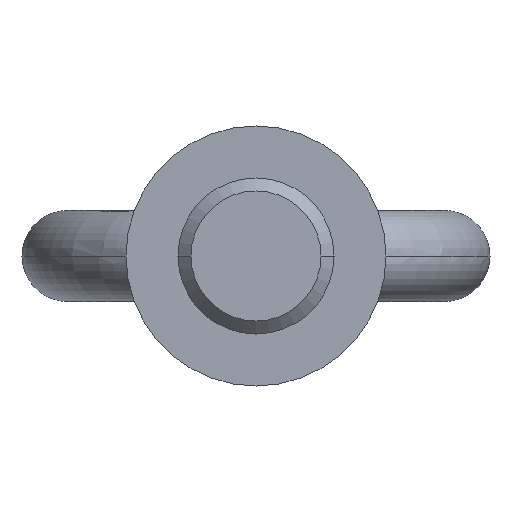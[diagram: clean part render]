
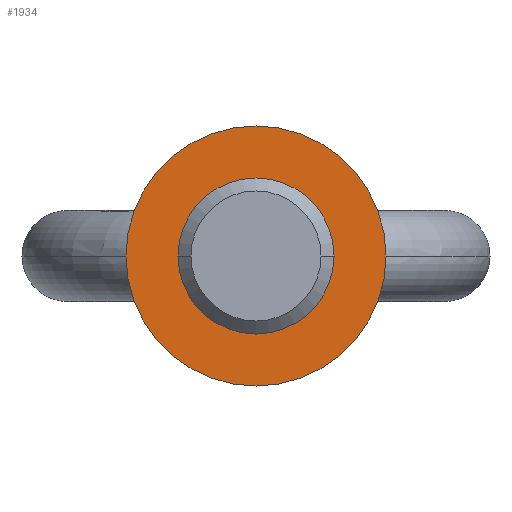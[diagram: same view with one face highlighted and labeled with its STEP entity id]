
A CAD part, front view. The second image highlights one B-rep face of the part: STEP entity #1934.
In plain terms, the highlighted planar face has unit normal (0, -1, 0).
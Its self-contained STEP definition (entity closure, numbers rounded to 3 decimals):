
#111 = DIRECTION ( 'NONE',  ( 0., 1., 0. ) ) ;
#131 = ORIENTED_EDGE ( 'NONE', *, *, #2061, .F. ) ;
#212 = EDGE_CURVE ( 'NONE', #1948, #1283, #424, .T. ) ;
#237 = EDGE_LOOP ( 'NONE', ( #131, #844 ) ) ;
#339 = AXIS2_PLACEMENT_3D ( 'NONE', #1399, #2157, #438 ) ;
#424 = CIRCLE ( 'NONE', #703, 10. ) ;
#425 = FACE_OUTER_BOUND ( 'NONE', #237, .T. ) ;
#438 = DIRECTION ( 'NONE',  ( 0., 0., 1. ) ) ;
#591 = DIRECTION ( 'NONE',  ( 0., 1., 0. ) ) ;
#647 = CIRCLE ( 'NONE', #2257, 6. ) ;
#649 = EDGE_CURVE ( 'NONE', #969, #1815, #1198, .T. ) ;
#703 = AXIS2_PLACEMENT_3D ( 'NONE', #1181, #1542, #1888 ) ;
#800 = CARTESIAN_POINT ( 'NONE',  ( 0., 0., -6. ) ) ;
#844 = ORIENTED_EDGE ( 'NONE', *, *, #212, .F. ) ;
#949 = CARTESIAN_POINT ( 'NONE',  ( 0., 0., 0. ) ) ;
#969 = VERTEX_POINT ( 'NONE', #1209 ) ;
#1039 = FACE_BOUND ( 'NONE', #2255, .T. ) ;
#1128 = DIRECTION ( 'NONE',  ( 0., 0., 1. ) ) ;
#1133 = AXIS2_PLACEMENT_3D ( 'NONE', #1447, #111, #2172 ) ;
#1139 = CARTESIAN_POINT ( 'NONE',  ( 0., 0., 0. ) ) ;
#1181 = CARTESIAN_POINT ( 'NONE',  ( 0., 0., 0. ) ) ;
#1198 = CIRCLE ( 'NONE', #1993, 6. ) ;
#1209 = CARTESIAN_POINT ( 'NONE',  ( 0., 0., 6. ) ) ;
#1283 = VERTEX_POINT ( 'NONE', #2451 ) ;
#1286 = ORIENTED_EDGE ( 'NONE', *, *, #2226, .T. ) ;
#1399 = CARTESIAN_POINT ( 'NONE',  ( 0., 0., 0. ) ) ;
#1447 = CARTESIAN_POINT ( 'NONE',  ( 0., 0., 0. ) ) ;
#1542 = DIRECTION ( 'NONE',  ( 0., 1., 0. ) ) ;
#1689 = ORIENTED_EDGE ( 'NONE', *, *, #649, .T. ) ;
#1787 = PLANE ( 'NONE',  #1133 ) ;
#1815 = VERTEX_POINT ( 'NONE', #800 ) ;
#1888 = DIRECTION ( 'NONE',  ( 0., 0., 1. ) ) ;
#1889 = CIRCLE ( 'NONE', #339, 10. ) ;
#1934 = ADVANCED_FACE ( 'NONE', ( #1039, #425 ), #1787, .F. ) ;
#1948 = VERTEX_POINT ( 'NONE', #1968 ) ;
#1968 = CARTESIAN_POINT ( 'NONE',  ( 0., 0., -10. ) ) ;
#1993 = AXIS2_PLACEMENT_3D ( 'NONE', #1139, #2266, #1128 ) ;
#2061 = EDGE_CURVE ( 'NONE', #1283, #1948, #1889, .T. ) ;
#2121 = DIRECTION ( 'NONE',  ( 0., 0., 1. ) ) ;
#2157 = DIRECTION ( 'NONE',  ( 0., 1., 0. ) ) ;
#2172 = DIRECTION ( 'NONE',  ( 0., 0., 1. ) ) ;
#2226 = EDGE_CURVE ( 'NONE', #1815, #969, #647, .T. ) ;
#2255 = EDGE_LOOP ( 'NONE', ( #1286, #1689 ) ) ;
#2257 = AXIS2_PLACEMENT_3D ( 'NONE', #949, #591, #2121 ) ;
#2266 = DIRECTION ( 'NONE',  ( 0., 1., 0. ) ) ;
#2451 = CARTESIAN_POINT ( 'NONE',  ( 0., 0., 10. ) ) ;
